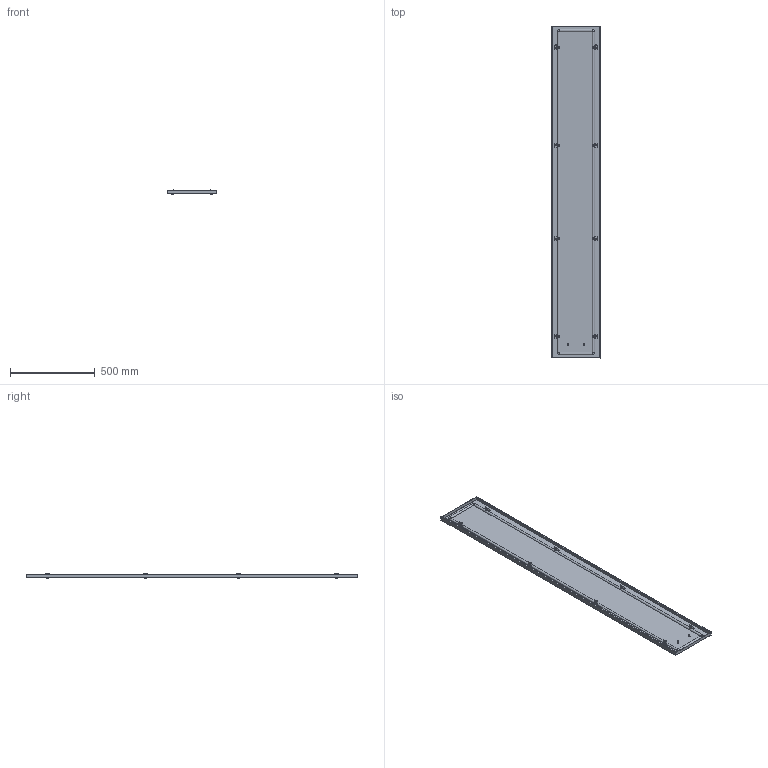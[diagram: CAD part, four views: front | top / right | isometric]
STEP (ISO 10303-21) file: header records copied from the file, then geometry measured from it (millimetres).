
FILE_DESCRIPTION(('Open CASCADE Model'),'2;1');
FILE_NAME('Open CASCADE Shape Model','2025-02-07T16:30:52',('Author'),( 'Open CASCADE'),'Open CASCADE STEP processor 7.8','Open CASCADE 7.8' ,'Unknown');
FILE_SCHEMA(('AUTOMOTIVE_DESIGN { 1 0 10303 214 1 1 1 1 }'));
Length unit declared in the file: millimetre
Products named in the file (10): Compound1; Compound2; Compound3; Solid1; Solid2; Solid3; Solid4; Solid5; Solid6; Solid7
Assembly tree (40 placements, depth 4):
  Compound1
    Compound2
      Compound3
        Solid1
        Solid2  x4
      Solid3
    Solid4  x8
    Solid5  x8
    Solid6  x8
    Solid7  x8
Bounding box: 294 x 1955 x 23.8 mm (x, y, z)
Volume: 1440083.8 mm3; surface area: 1597824.9 mm2
Topology: 38 solids, 38 shells, 1655 faces, 4040 edges, 2460 vertices
Faces by surface type: plane 1043, cone 308, cylinder 268, torus 25, bspline 8, revolution 3
Full cylindrical faces by diameter (mm): 5 x16, 6 x132, 7.5 x4, 8 x16, 10 x8, 11.57 x8
Entity records: 7823 total; most frequent: CARTESIAN_POINT 1513, DIRECTION 1262, ORIENTED_EDGE 1244, EDGE_CURVE 622, AXIS2_PLACEMENT_3D 425, LINE 409, VECTOR 409, VERTEX_POINT 387
